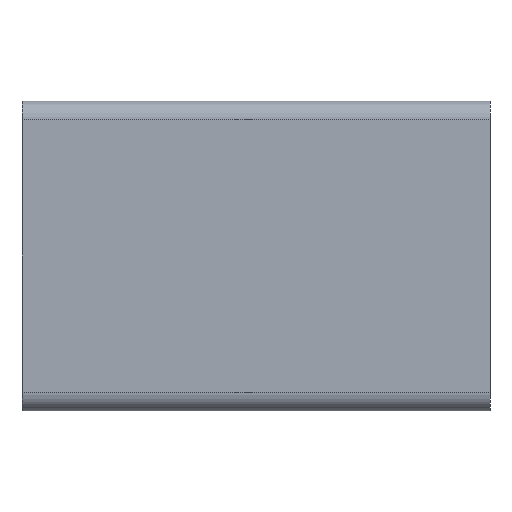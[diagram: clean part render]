
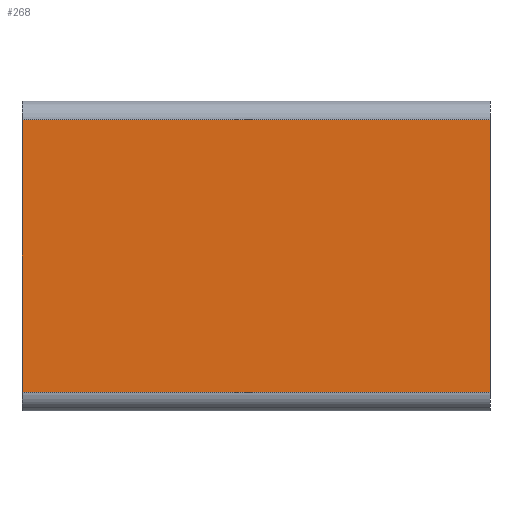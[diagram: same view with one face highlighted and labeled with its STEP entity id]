
A CAD part, front view. The second image highlights one B-rep face of the part: STEP entity #268.
In plain terms, the highlighted planar face has unit normal (0, -1, 0).
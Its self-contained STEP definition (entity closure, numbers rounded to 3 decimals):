
#210=CARTESIAN_POINT('',(100.0,-87.5,4.0));
#211=VERTEX_POINT('',#210);
#219=CARTESIAN_POINT('',(0.0,-87.5,4.0));
#220=VERTEX_POINT('',#219);
#221=CARTESIAN_POINT('',(0.0,-87.5,4.0));
#222=DIRECTION('',(1.0,0.0,0.0));
#223=VECTOR('',#222,100.0);
#224=LINE('',#221,#223);
#225=EDGE_CURVE('',#220,#211,#224,.T.);
#238=CARTESIAN_POINT('',(0.0,-87.5,4.0));
#239=DIRECTION('',(0.0,-1.0,0.0));
#240=DIRECTION('',(0.0,0.0,-1.0));
#241=AXIS2_PLACEMENT_3D('',#238,#239,#240);
#242=PLANE('',#241);
#243=CARTESIAN_POINT('',(100.0,-87.5,62.2));
#244=VERTEX_POINT('',#243);
#245=CARTESIAN_POINT('',(100.0,-87.5,4.0));
#246=DIRECTION('',(0.0,0.0,1.0));
#247=VECTOR('',#246,58.2);
#248=LINE('',#245,#247);
#249=EDGE_CURVE('',#211,#244,#248,.T.);
#250=ORIENTED_EDGE('',*,*,#249,.T.);
#251=CARTESIAN_POINT('',(0.0,-87.5,62.2));
#252=VERTEX_POINT('',#251);
#253=CARTESIAN_POINT('',(0.0,-87.5,62.2));
#254=DIRECTION('',(1.0,0.0,0.0));
#255=VECTOR('',#254,100.0);
#256=LINE('',#253,#255);
#257=EDGE_CURVE('',#252,#244,#256,.T.);
#258=ORIENTED_EDGE('',*,*,#257,.F.);
#259=CARTESIAN_POINT('',(0.0,-87.5,62.2));
#260=DIRECTION('',(0.0,0.0,-1.0));
#261=VECTOR('',#260,58.2);
#262=LINE('',#259,#261);
#263=EDGE_CURVE('',#252,#220,#262,.T.);
#264=ORIENTED_EDGE('',*,*,#263,.T.);
#265=ORIENTED_EDGE('',*,*,#225,.T.);
#266=EDGE_LOOP('',(#250,#258,#264,#265));
#267=FACE_OUTER_BOUND('',#266,.T.);
#268=ADVANCED_FACE('',(#267),#242,.T.);
